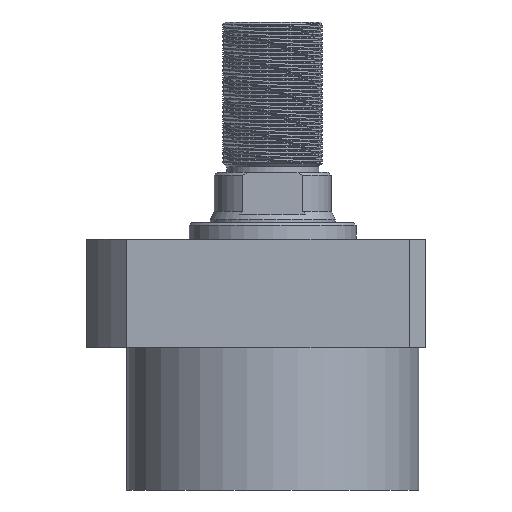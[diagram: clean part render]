
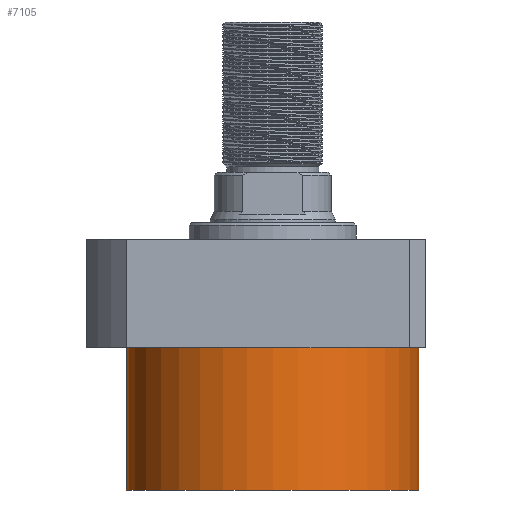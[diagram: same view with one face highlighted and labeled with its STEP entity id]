
A CAD part, front view. The second image highlights one B-rep face of the part: STEP entity #7105.
In plain terms, the highlighted cylindrical face has radius 52.5 mm (diameter 105 mm), a partial arc.
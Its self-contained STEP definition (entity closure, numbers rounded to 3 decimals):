
#248 = VECTOR ( 'NONE', #5183, 1000. ) ;
#539 = ORIENTED_EDGE ( 'NONE', *, *, #2460, .F. ) ;
#617 = EDGE_LOOP ( 'NONE', ( #539, #896, #649, #1897 ) ) ;
#649 = ORIENTED_EDGE ( 'NONE', *, *, #2519, .T. ) ;
#896 = ORIENTED_EDGE ( 'NONE', *, *, #5949, .F. ) ;
#1069 = CARTESIAN_POINT ( 'NONE',  ( 0., 0., -19.5 ) ) ;
#1652 = AXIS2_PLACEMENT_3D ( 'NONE', #3659, #7997, #4284 ) ;
#1712 = DIRECTION ( 'NONE',  ( 1., 0., 0. ) ) ;
#1897 = ORIENTED_EDGE ( 'NONE', *, *, #5449, .T. ) ;
#2253 = VERTEX_POINT ( 'NONE', #5631 ) ;
#2448 = CYLINDRICAL_SURFACE ( 'NONE', #6410, 52.5 ) ;
#2460 = EDGE_CURVE ( 'NONE', #4388, #2253, #5395, .T. ) ;
#2513 = CARTESIAN_POINT ( 'NONE',  ( -52.5, 0., -70.5 ) ) ;
#2519 = EDGE_CURVE ( 'NONE', #7347, #6450, #4966, .T. ) ;
#2535 = DIRECTION ( 'NONE',  ( 0., 0., 1. ) ) ;
#2632 = FACE_OUTER_BOUND ( 'NONE', #617, .T. ) ;
#3197 = DIRECTION ( 'NONE',  ( 0., 0., 1. ) ) ;
#3659 = CARTESIAN_POINT ( 'NONE',  ( 0., 0., -70.5 ) ) ;
#3923 = CARTESIAN_POINT ( 'NONE',  ( -52.5, 0., -70.5 ) ) ;
#4284 = DIRECTION ( 'NONE',  ( -1., 0., 0. ) ) ;
#4388 = VERTEX_POINT ( 'NONE', #3923 ) ;
#4431 = CARTESIAN_POINT ( 'NONE',  ( 52.5, 0., -70.5 ) ) ;
#4446 = CARTESIAN_POINT ( 'NONE',  ( 0., 0., -70.5 ) ) ;
#4966 = LINE ( 'NONE', #4431, #248 ) ;
#5070 = DIRECTION ( 'NONE',  ( 1., 0., 0. ) ) ;
#5174 = VECTOR ( 'NONE', #2535, 1000. ) ;
#5183 = DIRECTION ( 'NONE',  ( 0., 0., 1. ) ) ;
#5395 = LINE ( 'NONE', #2513, #5174 ) ;
#5425 = DIRECTION ( 'NONE',  ( 0., 0., -1. ) ) ;
#5449 = EDGE_CURVE ( 'NONE', #6450, #2253, #6591, .T. ) ;
#5631 = CARTESIAN_POINT ( 'NONE',  ( -52.5, 0., -19.5 ) ) ;
#5949 = EDGE_CURVE ( 'NONE', #7347, #4388, #7725, .T. ) ;
#6410 = AXIS2_PLACEMENT_3D ( 'NONE', #4446, #3197, #5070 ) ;
#6450 = VERTEX_POINT ( 'NONE', #6639 ) ;
#6591 = CIRCLE ( 'NONE', #7767, 52.5 ) ;
#6639 = CARTESIAN_POINT ( 'NONE',  ( 52.5, 0., -19.5 ) ) ;
#7105 = ADVANCED_FACE ( 'NONE', ( #2632 ), #2448, .T. ) ;
#7347 = VERTEX_POINT ( 'NONE', #7736 ) ;
#7725 = CIRCLE ( 'NONE', #1652, 52.5 ) ;
#7736 = CARTESIAN_POINT ( 'NONE',  ( 52.5, 0., -70.5 ) ) ;
#7767 = AXIS2_PLACEMENT_3D ( 'NONE', #1069, #5425, #1712 ) ;
#7997 = DIRECTION ( 'NONE',  ( 0., 0., -1. ) ) ;
